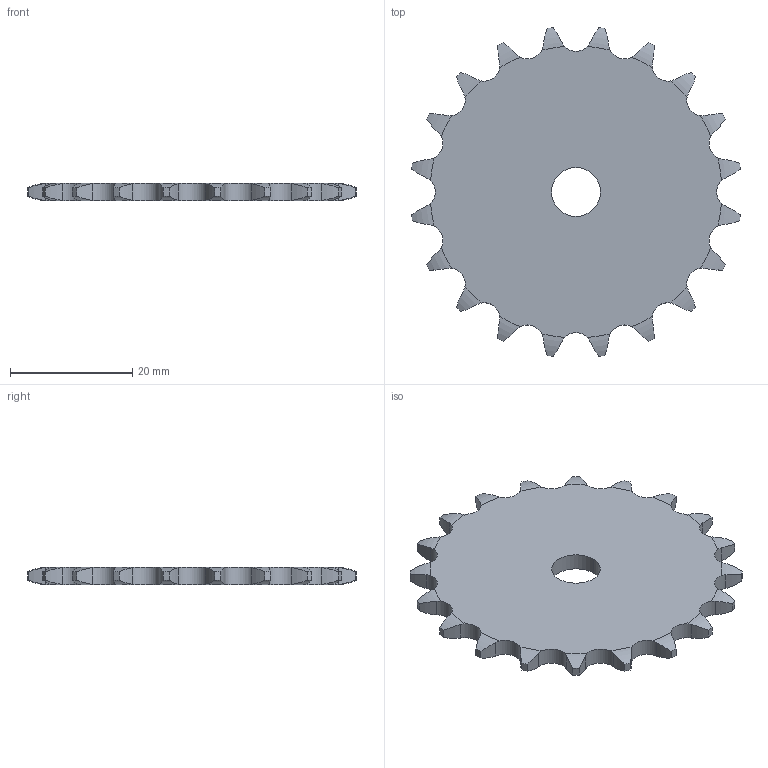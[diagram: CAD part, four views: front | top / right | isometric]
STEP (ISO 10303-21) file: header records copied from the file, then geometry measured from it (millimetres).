
FILE_DESCRIPTION((''),'2;1');
FILE_NAME('500-081-0020_PRT','2021-02-12T',('Brieden'),('Brieden'),'PRO/ENGINEER BY PARAMETRIC TECHNOLOGY CORPORATION, 2010160','PRO/ENGINEER BY PARAMETRIC TECHNOLOGY CORPORATION, 2010160','');
FILE_SCHEMA(('AUTOMOTIVE_DESIGN { 1 0 10303 214 1 1 1 1 }'));
Length unit declared in the file: millimetre
Products named in the file (1): 500-081-0020_PRT
Bounding box: 53.88 x 53.88 x 2.8 mm (x, y, z)
Volume: 5161.8 mm3; surface area: 4402.6 mm2
Topology: 1 solids, 1 shells, 124 faces, 366 edges, 244 vertices
Faces by surface type: cylinder 82, torus 40, plane 2
Entity records: 5982 total; most frequent: CARTESIAN_POINT 1693, ORIENTED_EDGE 732, DIRECTION 578, PRESENTATION_STYLE_ASSIGNMENT 367, STYLED_ITEM 367, CURVE_STYLE 366, EDGE_CURVE 366, AXIS2_PLACEMENT_3D 248
